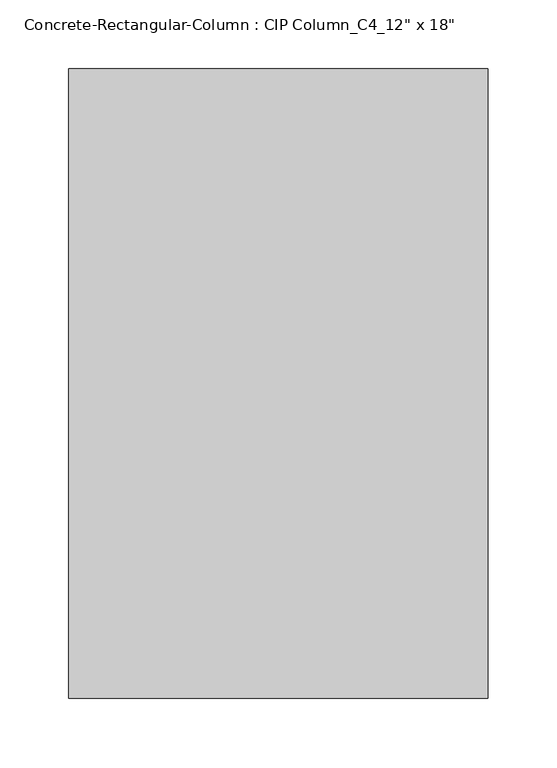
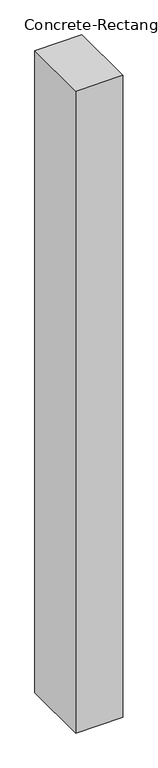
"""IFC4 building model written with IfcOpenShell, lengths in millimetres: column geometry."""

from ifc_helpers import new_model, si_unit, frame, origin, place, context, project, spatial, polyline, outline, extrude, source, transform, mapped, element, save


def column_094be883(model_context):
    return source(origin(), model_context, "Body", "SweptSolid", [
        extrude(outline(polyline([(152.4, 228.6), (152.4, -228.6), (-152.4, -228.6), (-152.4, 228.6), (152.4, 228.6)])), frame((0.0, 0.0, 9017.0), z_axis=(0.0, 0.0, 1.0), x_axis=(1.0, 0.0, 0.0)), (0.0, 0.0, 1.0), 4394.2),
    ])


if __name__ == "__main__":
    model = new_model("IFC4")
    model_context = context("Model", 3, world=origin())
    ifc_project = project(units=[si_unit("LENGTHUNIT", "METRE", prefix="MILLI")], contexts=[model_context])
    site = spatial("IfcSite", under=ifc_project)
    building = spatial("IfcBuilding", under=site)
    placement = place(None, origin())
    column_shape = column_094be883(model_context)
    element("IfcColumn", 1, ObjectType="Concrete-Rectangular-Column : CIP Column_C4_12\" x 18\"", at=placement, inside=building, context=model_context, shape_type="MappedRepresentation", body=[
        mapped(column_shape, transform((0.0, 0.0, 0.0), x_axis=(1.0, 0.0, 0.0), y_axis=(0.0, 1.0, 0.0), z_axis=(0.0, 0.0, 1.0))),
    ])
    save(model, "model.ifc")
